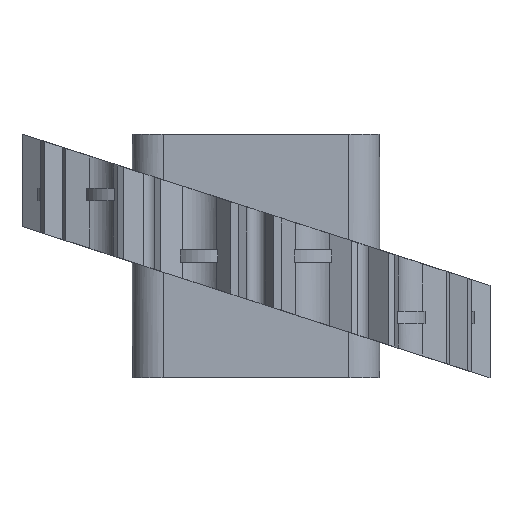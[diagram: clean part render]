
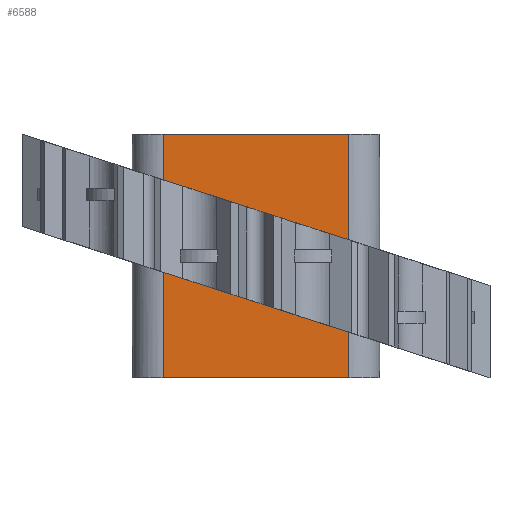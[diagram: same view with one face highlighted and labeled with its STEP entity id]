
A CAD part, left-side view. The second image highlights one B-rep face of the part: STEP entity #6588.
In plain terms, the highlighted planar face has unit normal (-1, 0, 0).
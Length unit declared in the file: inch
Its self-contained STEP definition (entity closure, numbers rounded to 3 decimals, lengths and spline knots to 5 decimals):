
#198=CARTESIAN_POINT('',(-1.005,0.63851,0.58146));
#200=CARTESIAN_POINT('',(-1.005,-0.63851,0.16854));
#384=CARTESIAN_POINT('',(-1.005,-0.63851,-0.58146));
#436=CARTESIAN_POINT('',(-1.005,0.63851,-0.16854));
#2901=DIRECTION('',(0.,0.,1.));
#2902=VECTOR('',#2901,0.85912);
#2903=CARTESIAN_POINT('',(-1.005,-0.755,0.13088));
#2904=LINE('',#2903,#2902);
#2917=DIRECTION('',(0.,0.,1.));
#2918=VECTOR('',#2917,0.37088);
#2919=CARTESIAN_POINT('',(-1.005,-0.755,-0.99));
#2920=LINE('',#2919,#2918);
#2921=DIRECTION('',(0.,-0.951,-0.308));
#2922=VECTOR('',#2921,0.12243);
#2923=CARTESIAN_POINT('',(-1.005,0.755,-0.13088));
#2924=LINE('',#2923,#2922);
#2925=DIRECTION('',(0.,0.,1.));
#2926=VECTOR('',#2925,0.75);
#2927=CARTESIAN_POINT('',(-1.005,0.63851,-0.16854));
#2928=LINE('',#2927,#2926);
#2929=DIRECTION('',(0.,-0.951,-0.308));
#2930=VECTOR('',#2929,0.12243);
#2931=CARTESIAN_POINT('',(-1.005,0.755,0.61912));
#2932=LINE('',#2931,#2930);
#2933=DIRECTION('',(0.,0.,1.));
#2934=VECTOR('',#2933,0.37088);
#2935=CARTESIAN_POINT('',(-1.005,0.755,0.61912));
#2936=LINE('',#2935,#2934);
#2937=DIRECTION('',(0.,-0.951,-0.308));
#2938=VECTOR('',#2937,0.12243);
#2939=CARTESIAN_POINT('',(-1.005,-0.63851,0.16854));
#2940=LINE('',#2939,#2938);
#2941=DIRECTION('',(0.,0.,1.));
#2942=VECTOR('',#2941,0.75);
#2943=CARTESIAN_POINT('',(-1.005,-0.63851,-0.58146));
#2944=LINE('',#2943,#2942);
#2945=DIRECTION('',(0.,-0.951,-0.308));
#2946=VECTOR('',#2945,0.12243);
#2947=CARTESIAN_POINT('',(-1.005,-0.63851,-0.58146));
#2948=LINE('',#2947,#2946);
#2949=DIRECTION('',(0.,0.,1.));
#2950=VECTOR('',#2949,0.85912);
#2951=CARTESIAN_POINT('',(-1.005,0.755,-0.99));
#2952=LINE('',#2951,#2950);
#3145=DIRECTION('',(0.,-1.,0.));
#3146=VECTOR('',#3145,1.51);
#3147=CARTESIAN_POINT('',(-1.005,0.755,0.99));
#3148=LINE('',#3147,#3146);
#3186=DIRECTION('',(0.,-1.,0.));
#3187=VECTOR('',#3186,1.51);
#3188=CARTESIAN_POINT('',(-1.005,0.755,-0.99));
#3189=LINE('',#3188,#3187);
#3691=CARTESIAN_POINT('',(-1.005,0.755,-0.99));
#3692=CARTESIAN_POINT('',(-1.005,-0.755,-0.99));
#3693=VERTEX_POINT('',#3691);
#3694=VERTEX_POINT('',#3692);
#3707=CARTESIAN_POINT('',(-1.005,0.755,0.99));
#3708=CARTESIAN_POINT('',(-1.005,-0.755,0.99));
#3709=VERTEX_POINT('',#3707);
#3710=VERTEX_POINT('',#3708);
#3740=VERTEX_POINT('',#436);
#3745=VERTEX_POINT('',#384);
#3752=VERTEX_POINT('',#198);
#3757=VERTEX_POINT('',#200);
#3843=CARTESIAN_POINT('',(-1.005,0.755,-0.13088));
#3844=VERTEX_POINT('',#3843);
#3845=CARTESIAN_POINT('',(-1.005,-0.755,-0.61912));
#3846=VERTEX_POINT('',#3845);
#3847=CARTESIAN_POINT('',(-1.005,0.755,0.61912));
#3848=VERTEX_POINT('',#3847);
#3849=CARTESIAN_POINT('',(-1.005,-0.755,0.13088));
#3850=VERTEX_POINT('',#3849);
#6563=CARTESIAN_POINT('',(-1.005,0.755,-0.99));
#6564=DIRECTION('',(-1.,0.,0.));
#6565=DIRECTION('',(0.,-1.,0.));
#6566=AXIS2_PLACEMENT_3D('',#6563,#6564,#6565);
#6567=PLANE('',#6566);
#6568=ORIENTED_EDGE('',*,*,#4379,.T.);
#6570=ORIENTED_EDGE('',*,*,#6569,.T.);
#6571=ORIENTED_EDGE('',*,*,#4121,.F.);
#6573=ORIENTED_EDGE('',*,*,#6572,.T.);
#6575=ORIENTED_EDGE('',*,*,#6574,.T.);
#6576=ORIENTED_EDGE('',*,*,#6541,.F.);
#6577=ORIENTED_EDGE('',*,*,#4129,.F.);
#6579=ORIENTED_EDGE('',*,*,#6578,.F.);
#6580=ORIENTED_EDGE('',*,*,#4371,.T.);
#6581=ORIENTED_EDGE('',*,*,#6558,.F.);
#6583=ORIENTED_EDGE('',*,*,#6582,.F.);
#6585=ORIENTED_EDGE('',*,*,#6584,.T.);
#6586=EDGE_LOOP('',(#6568,#6570,#6571,#6573,#6575,#6576,#6577,#6579,#6580,#6581,
#6583,#6585));
#6587=FACE_OUTER_BOUND('',#6586,.F.);
#6588=ADVANCED_FACE('',(#6587),#6567,.T.);
#4121=EDGE_CURVE('',#3848,#3752,#2932,.T.);
#4129=EDGE_CURVE('',#3757,#3850,#2940,.T.);
#4371=EDGE_CURVE('',#3745,#3846,#2948,.T.);
#4379=EDGE_CURVE('',#3844,#3740,#2924,.T.);
#6541=EDGE_CURVE('',#3850,#3710,#2904,.T.);
#6558=EDGE_CURVE('',#3694,#3846,#2920,.T.);
#6569=EDGE_CURVE('',#3740,#3752,#2928,.T.);
#6572=EDGE_CURVE('',#3848,#3709,#2936,.T.);
#6574=EDGE_CURVE('',#3709,#3710,#3148,.T.);
#6578=EDGE_CURVE('',#3745,#3757,#2944,.T.);
#6582=EDGE_CURVE('',#3693,#3694,#3189,.T.);
#6584=EDGE_CURVE('',#3693,#3844,#2952,.T.);
